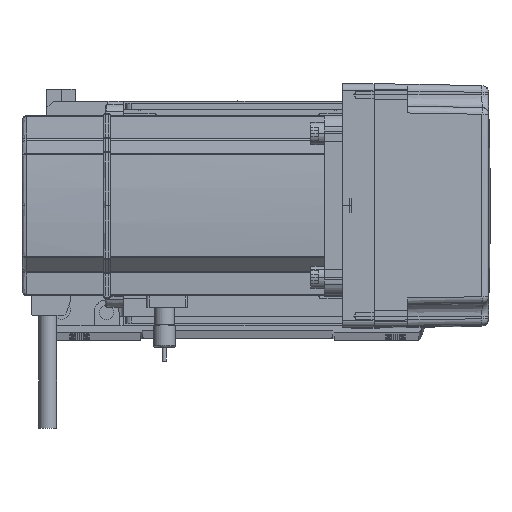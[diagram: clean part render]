
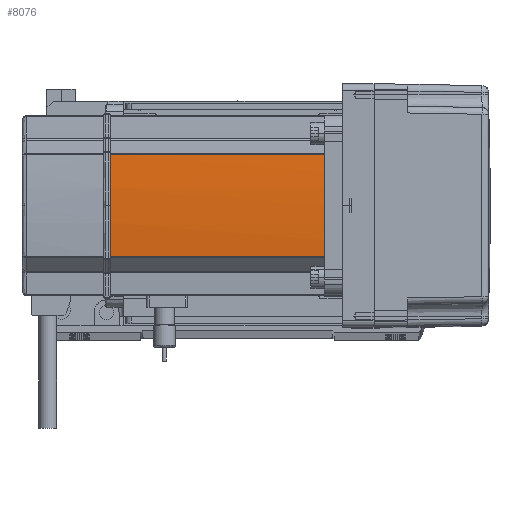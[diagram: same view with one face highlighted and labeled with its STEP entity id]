
A CAD part, top view. The second image highlights one B-rep face of the part: STEP entity #8076.
In plain terms, the highlighted cylindrical face has radius 270 mm (diameter 540 mm), a partial arc.
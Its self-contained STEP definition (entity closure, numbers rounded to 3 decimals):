
#1166 = EDGE_CURVE ( 'NONE', #54348, #35701, #60065, .T. ) ;
#1349 = LINE ( 'NONE', #38430, #55859 ) ;
#2839 = CIRCLE ( 'NONE', #34305, 270. ) ;
#3938 = AXIS2_PLACEMENT_3D ( 'NONE', #46069, #36397, #60250 ) ;
#4620 = EDGE_LOOP ( 'NONE', ( #32714, #55892, #24338, #38443, #20391 ) ) ;
#6617 = CARTESIAN_POINT ( 'NONE',  ( -39.042, 22.724, 134. ) ) ;
#8076 = ADVANCED_FACE ( 'NONE', ( #20996 ), #15015, .T. ) ;
#12263 = AXIS2_PLACEMENT_3D ( 'NONE', #53588, #14749, #43141 ) ;
#12638 = CARTESIAN_POINT ( 'NONE',  ( -39.042, -22.724, 134. ) ) ;
#12716 = DIRECTION ( 'NONE',  ( 0., 0., -1. ) ) ;
#14331 = DIRECTION ( 'NONE',  ( 1., 0., 0. ) ) ;
#14671 = DIRECTION ( 'NONE',  ( 0., 0., 1. ) ) ;
#14749 = DIRECTION ( 'NONE',  ( 0., 0., 1. ) ) ;
#15015 = CYLINDRICAL_SURFACE ( 'NONE', #12263, 270. ) ;
#19083 = CARTESIAN_POINT ( 'NONE',  ( 230., 0., 39. ) ) ;
#20391 = ORIENTED_EDGE ( 'NONE', *, *, #55407, .T. ) ;
#20996 = FACE_OUTER_BOUND ( 'NONE', #4620, .T. ) ;
#23018 = LINE ( 'NONE', #35860, #29082 ) ;
#24338 = ORIENTED_EDGE ( 'NONE', *, *, #46103, .T. ) ;
#25586 = DIRECTION ( 'NONE',  ( 1., 0., 0. ) ) ;
#26859 = CARTESIAN_POINT ( 'NONE',  ( -39.042, 22.724, 39. ) ) ;
#29082 = VECTOR ( 'NONE', #12716, 1000. ) ;
#32714 = ORIENTED_EDGE ( 'NONE', *, *, #55299, .T. ) ;
#33079 = AXIS2_PLACEMENT_3D ( 'NONE', #19083, #56699, #14331 ) ;
#34305 = AXIS2_PLACEMENT_3D ( 'NONE', #54211, #44393, #25586 ) ;
#35701 = VERTEX_POINT ( 'NONE', #26859 ) ;
#35860 = CARTESIAN_POINT ( 'NONE',  ( -39.042, 22.724, 0. ) ) ;
#36397 = DIRECTION ( 'NONE',  ( 0., 0., -1. ) ) ;
#38430 = CARTESIAN_POINT ( 'NONE',  ( -39.042, -22.724, 0. ) ) ;
#38443 = ORIENTED_EDGE ( 'NONE', *, *, #1166, .F. ) ;
#43141 = DIRECTION ( 'NONE',  ( 1., 0., 0. ) ) ;
#43301 = VERTEX_POINT ( 'NONE', #59423 ) ;
#44393 = DIRECTION ( 'NONE',  ( 0., 0., -1. ) ) ;
#46069 = CARTESIAN_POINT ( 'NONE',  ( 230., 0., 134. ) ) ;
#46103 = EDGE_CURVE ( 'NONE', #51184, #35701, #23018, .T. ) ;
#48415 = CIRCLE ( 'NONE', #3938, 270. ) ;
#51184 = VERTEX_POINT ( 'NONE', #6617 ) ;
#51209 = VERTEX_POINT ( 'NONE', #12638 ) ;
#53588 = CARTESIAN_POINT ( 'NONE',  ( 230., 0., 0. ) ) ;
#54211 = CARTESIAN_POINT ( 'NONE',  ( 230., 0., 134. ) ) ;
#54260 = CARTESIAN_POINT ( 'NONE',  ( -39.042, -22.724, 39. ) ) ;
#54348 = VERTEX_POINT ( 'NONE', #54260 ) ;
#55166 = EDGE_CURVE ( 'NONE', #43301, #51184, #2839, .T. ) ;
#55299 = EDGE_CURVE ( 'NONE', #51209, #43301, #48415, .T. ) ;
#55407 = EDGE_CURVE ( 'NONE', #54348, #51209, #1349, .T. ) ;
#55859 = VECTOR ( 'NONE', #14671, 1000. ) ;
#55892 = ORIENTED_EDGE ( 'NONE', *, *, #55166, .T. ) ;
#56699 = DIRECTION ( 'NONE',  ( 0., 0., -1. ) ) ;
#59423 = CARTESIAN_POINT ( 'NONE',  ( -40., 0., 134. ) ) ;
#60065 = CIRCLE ( 'NONE', #33079, 270. ) ;
#60250 = DIRECTION ( 'NONE',  ( 1., 0., 0. ) ) ;
